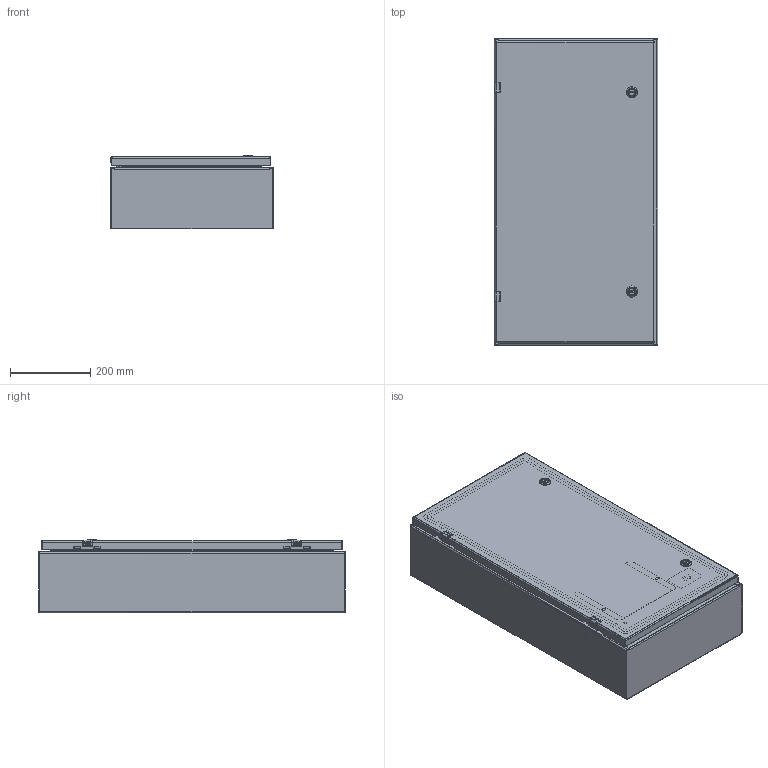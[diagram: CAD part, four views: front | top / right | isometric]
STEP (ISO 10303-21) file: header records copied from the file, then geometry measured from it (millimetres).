
FILE_DESCRIPTION((''),'2;1');
FILE_NAME('MODEL-306_ASM','2026-04-10T11:16:07',('andrew.knowlton'),('SAGINAW CONTROL & ENGINEERING'),'CREO PARAMETRIC BY PTC INC, 2021284','CREO PARAMETRIC BY PTC INC, 2021284','');
FILE_SCHEMA(('AUTOMOTIVE_DESIGN { 1 0 10303 214 1 1 1 1 }'));
Length unit declared in the file: inch
Products named in the file (30): MODEL-306-BDY; MODEL-306-TP; MODEL-306-BTM; MODEL-306-DR; 100837; 100882; 111541; 125597; 100794_SHAFT; 100794_INSERT; 100794_CAM; 100794_NUT; 100794_SCREW; 100794_ASM; MODEL-306-DOOR-GASKET; 126392; 126392_ASM; 126395; 102483; 101226; 101389; 102140; 132757; MODEL-306-DOOR-ASSY_ASM; 101653; 122191; SUBPANEL; 100904; SUBPANEL-SUBASSEMBLY_ASM; MODEL-306_ASM
Assembly tree (51 placements, depth 4):
  MODEL-306_ASM
    MODEL-306-BDY
    MODEL-306-TP
    MODEL-306-BTM
    MODEL-306-DOOR-ASSY_ASM
      MODEL-306-DR
      100837  x3
      100882  x2
      111541
      125597
      100794_ASM  x2
        100794_SHAFT
        100794_INSERT
        100794_CAM
        100794_NUT
        100794_SCREW
      MODEL-306-DOOR-GASKET
      126392_ASM  x2
        126392
      126395  x2
      102483  x6
      101226  x2
      101389  x2
      102140  x2
      132757  x2
    100837
    101653  x4
    122191
    SUBPANEL-SUBASSEMBLY_ASM
      SUBPANEL
      100904  x4
Bounding box: 406.4 x 762 x 183.53 mm (x, y, z)
Volume: 3242842.7 mm3; surface area: 2945241 mm2
Topology: 52 solids, 52 shells, 3093 faces, 7860 edges, 4938 vertices
Faces by surface type: plane 1400, cylinder 855, bspline 436, torus 222, cone 124, sphere 56
Entity records: 86654 total; most frequent: CARTESIAN_POINT 24043, ORIENTED_EDGE 9000, DIRECTION 8508, PRESENTATION_STYLE_ASSIGNMENT 4701, EDGE_CURVE 4500, STYLED_ITEM 4424, CURVE_STYLE 4338, AXIS2_PLACEMENT_3D 3077
